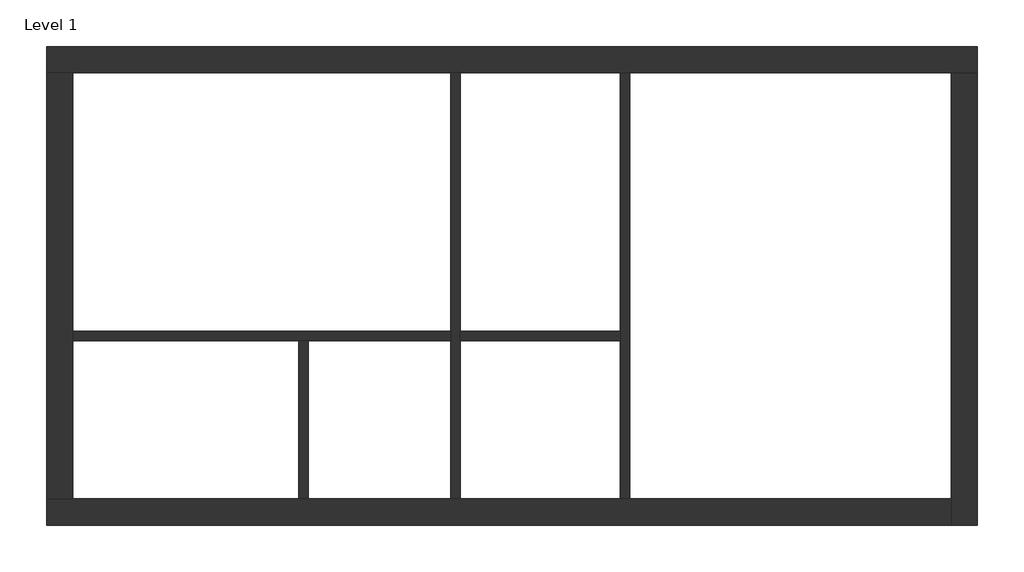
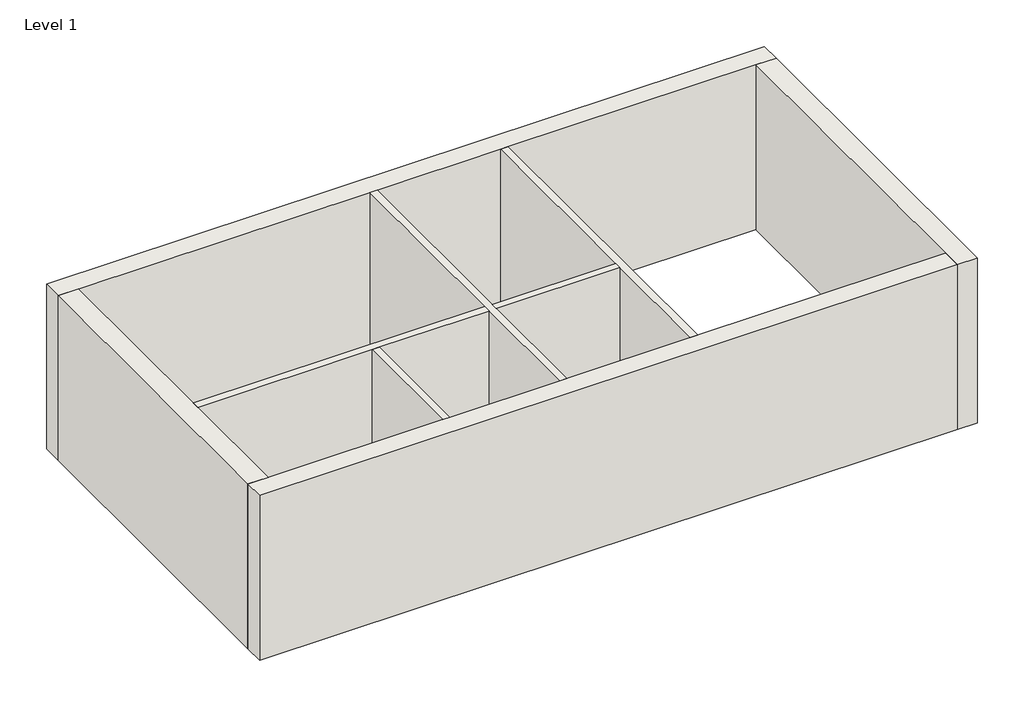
# One storey: 8 walls.
"""IFC4 building model written with IfcOpenShell, lengths in millimetres."""

import ifcopenshell
import ifcopenshell.guid

model = None  # the IFC model being written
_history = None  # IfcOwnerHistory: only IFC2X3 demands one
_inside = {}  # id of a spatial element -> (the spatial element, [elements in it])
_under = {}  # id of a project, library or spatial element -> (it, [spatial elements below it])
_declared = {}  # id of a project -> (the project, [libraries it declares])
_typed = {}  # id of a type object -> (the type object, [elements of that type])
_made_of = {}  # id of a material, layer set ... -> (it, [elements and type objects made of it])


def new_model(schema):
    """Start an empty IFC model of exactly this schema.

    Asked for "IFC4X3", IfcOpenShell would pick the latest addendum, in which some entities
    have other attributes; the version numbers below select the first issue.
    IFC2X3 requires an IfcOwnerHistory on every rooted entity: one is made here for all.
    """
    global model, _history
    if schema == "IFC4X3":
        model = ifcopenshell.file(schema_version=(4, 3, 0, 0))
    else:
        model = ifcopenshell.file(schema=schema)
    _inside.clear()
    _under.clear()
    _declared.clear()
    _typed.clear()
    _made_of.clear()
    _history = None
    if model.schema == "IFC2X3":
        org = make("IfcOrganization", Name="unknown")
        user = make(
            "IfcPersonAndOrganization",
            ThePerson=make("IfcPerson", FamilyName="unknown"),
            TheOrganization=org,
        )
        app = make(
            "IfcApplication",
            ApplicationDeveloper=org,
            Version="unknown",
            ApplicationFullName="unknown",
            ApplicationIdentifier="unknown",
        )
        _history = make(
            "IfcOwnerHistory",
            OwningUser=user,
            OwningApplication=app,
            ChangeAction="ADDED",
            CreationDate=0,
        )
    return model


def make(cls, **values):
    """One entity of the class cls with the attributes given. An attribute that is None is left unset."""
    return model.create_entity(
        cls, **{name: value for name, value in values.items() if value is not None}
    )


def rooted(cls, **values):
    """An entity with a GlobalId (a new one), such as an element, a storey or a relation."""
    return make(cls, GlobalId=ifcopenshell.guid.new(), OwnerHistory=_history, **values)


def si_unit(unit_type, name, prefix=None):
    """IfcSIUnit, for example si_unit("LENGTHUNIT", "METRE", prefix="MILLI")."""
    return make("IfcSIUnit", UnitType=unit_type, Prefix=prefix, Name=name)


def assignment(units):
    """IfcUnitAssignment: the units of a project."""
    return None if units is None else make("IfcUnitAssignment", Units=units)


def point(xyz):
    """IfcCartesianPoint."""
    return None if xyz is None else make("IfcCartesianPoint", Coordinates=xyz)


def direction(xyz):
    """IfcDirection."""
    return None if xyz is None else make("IfcDirection", DirectionRatios=xyz)


def frame(location, z_axis=None, x_axis=None):
    """IfcAxis2Placement3D, a coordinate frame: its origin and axes. An axis left out is left unset."""
    return make(
        "IfcAxis2Placement3D",
        Location=point(location),
        Axis=direction(z_axis),
        RefDirection=direction(x_axis),
    )


def origin():
    """The frame at (0, 0, 0) with its axes left unset."""
    return frame((0.0, 0.0, 0.0))


def origin_with_axes():
    """The frame at (0, 0, 0) with the z axis (0, 0, 1) and the x axis (1, 0, 0) written out."""
    return frame((0.0, 0.0, 0.0), z_axis=(0.0, 0.0, 1.0), x_axis=(1.0, 0.0, 0.0))


def place(relative_to, where):
    """IfcLocalPlacement: puts the frame where relative to a parent placement (None: the world)."""
    return make(
        "IfcLocalPlacement", PlacementRelTo=relative_to, RelativePlacement=where
    )


def context(
    kind, dimensions, precision=None, world=None, true_north=None, identifier=None
):
    """IfcGeometricRepresentationContext, for example the 3D "Model" context."""
    return make(
        "IfcGeometricRepresentationContext",
        ContextIdentifier=identifier,
        ContextType=kind,
        CoordinateSpaceDimension=dimensions,
        Precision=precision,
        WorldCoordinateSystem=world,
        TrueNorth=true_north,
    )


def project(units=None, contexts=None):
    """IfcProject with its units and contexts."""
    return rooted(
        "IfcProject",
        Name="project",
        RepresentationContexts=contexts,
        UnitsInContext=assignment(units),
    )


def spatial(cls, under=None, at=None, **own):
    """A site, building, storey or space (cls), placed at a placement, below another one or the project."""
    s = rooted(cls, ObjectPlacement=at, **own)
    if under is not None:
        _under.setdefault(under.id(), (under, []))[1].append(s)
    return s


def polyline(points):
    """IfcPolyline through the points."""
    return make("IfcPolyline", Points=[point(p) for p in points])


def outline(outer, holes=None, kind="AREA"):
    """IfcArbitraryClosedProfileDef: a profile drawn as a closed curve; with holes, ...WithVoids."""
    if holes is None:
        return make("IfcArbitraryClosedProfileDef", ProfileType=kind, OuterCurve=outer)
    return make(
        "IfcArbitraryProfileDefWithVoids",
        ProfileType=kind,
        OuterCurve=outer,
        InnerCurves=holes,
    )


def extrude(swept, where, along, depth):
    """IfcExtrudedAreaSolid: the profile swept, set in the frame where, extruded along a direction by depth."""
    return make(
        "IfcExtrudedAreaSolid",
        SweptArea=swept,
        Position=where,
        ExtrudedDirection=direction(along),
        Depth=depth,
    )


def faces_of(points, faces, orient=None, outer=None):
    """IfcFace entities. A face is a list of loops; a loop is a list of indices into points, from 0.

    orient and outer hold one flag for each loop. By default every Orientation is true, the
    first loop of a face is its IfcFaceOuterBound and the others are IfcFaceBound.
    """
    made = []
    for i, loops in enumerate(faces):
        bounds = []
        for j, loop in enumerate(loops):
            is_outer = j == 0 if outer is None else outer[i][j]
            bounds.append(
                make(
                    "IfcFaceOuterBound" if is_outer else "IfcFaceBound",
                    Bound=make("IfcPolyLoop", Polygon=[points[k] for k in loop]),
                    Orientation=True if orient is None else orient[i][j],
                )
            )
        made.append(make("IfcFace", Bounds=bounds))
    return made


def faceted_brep(points, faces, orient=None, outer=None, voids=None):
    """IfcFacetedBrep: a solid bounded by flat faces; with voids (closed shells), ...WithVoids."""
    shared = [point(p) for p in points]
    hull = make("IfcClosedShell", CfsFaces=faces_of(shared, faces, orient, outer))
    if voids is None:
        return make("IfcFacetedBrep", Outer=hull)
    return make(
        "IfcFacetedBrepWithVoids",
        Outer=hull,
        Voids=[
            make(cls, CfsFaces=faces_of(shared, fs, o, b)) for cls, fs, o, b in voids
        ],
    )


def shape(context_of_items, identifier, shape_type, items):
    """IfcShapeRepresentation: the items that make up one representation, for example the "Body"."""
    return make(
        "IfcShapeRepresentation",
        ContextOfItems=context_of_items,
        RepresentationIdentifier=identifier,
        RepresentationType=shape_type,
        Items=items,
    )


def made_of(thing, what):
    """Note that an element or type object is made of a material, layer set ...; save() writes the relation."""
    if what is not None:
        _made_of.setdefault(what.id(), (what, []))[1].append(thing)
    return thing


def element(
    cls,
    number,
    at=None,
    inside=None,
    cuts=None,
    type_object=None,
    material=None,
    context=None,
    identifier="Body",
    shape_type=None,
    held_by="IfcProductDefinitionShape",
    body=None,
    shapes=None,
    **own,
):
    """One element of the class cls, such as IfcWall. Its Tag is "e" and its number.

    at: its placement. inside: the storey or other place that contains it. cuts: it is an
    opening in that element (IfcRelVoidsElement). A single representation is given by context,
    identifier, shape_type and body (its items); several are given by shapes. held_by: the class
    of the entity that holds the representations. save() writes the other relations.
    """
    e = rooted(cls, Tag="e%d" % number, ObjectPlacement=at, **own)
    if body is not None:
        shapes = [shape(context, identifier, shape_type, body)]
    if shapes is not None:
        e.Representation = make(held_by, Representations=shapes)
    if inside is not None:
        _inside.setdefault(inside.id(), (inside, []))[1].append(e)
    if cuts is not None:
        rooted(
            "IfcRelVoidsElement", RelatingBuildingElement=cuts, RelatedOpeningElement=e
        )
    if type_object is not None:
        _typed.setdefault(type_object.id(), (type_object, []))[1].append(e)
    return made_of(e, material)


def aggregate(whole, parts):
    """IfcRelAggregates: a whole, such as a stair, and the parts it consists of."""
    return rooted("IfcRelAggregates", RelatingObject=whole, RelatedObjects=parts)


def save(model, path):
    """Write the relations noted so far, then the file.

    IfcRelAggregates (storeys below a building ...), IfcRelContainedInSpatialStructure (elements
    in a storey), IfcRelDefinesByType, IfcRelAssociatesMaterial and IfcRelDeclares: one each for
    every whole, place, type object, material and project.
    """
    for whole, parts in _under.values():
        aggregate(whole, parts)
    for where, things in _inside.values():
        rooted(
            "IfcRelContainedInSpatialStructure",
            RelatedElements=things,
            RelatingStructure=where,
        )
    for kind, things in _typed.values():
        rooted("IfcRelDefinesByType", RelatedObjects=things, RelatingType=kind)
    for what, things in _made_of.values():
        rooted("IfcRelAssociatesMaterial", RelatedObjects=things, RelatingMaterial=what)
    for by, libraries in _declared.values():
        rooted("IfcRelDeclares", RelatingContext=by, RelatedDefinitions=libraries)
    model.write(path)


model = new_model("IFC4")

# Units and contexts
model_context = context("Model", 3, world=origin())
ifc_project = project(units=[si_unit("LENGTHUNIT", "METRE", prefix="MILLI")], contexts=[model_context])

# Site, building, storey
site = spatial("IfcSite", under=ifc_project)
building = spatial("IfcBuilding", under=site)
storey = spatial("IfcBuildingStorey", under=building, Name="Level 1", Elevation=0.0)

# Walls
placement = place(None, origin())
element("IfcWall", 1, ObjectType="Exterior - Brick on Mtl. Stud", at=placement, inside=storey, context=model_context, shape_type="Brep", body=[
    faceted_brep([(-19116.5969712, 7611.6441174, 0.0), (-18764.1719712, 7611.6441174, 0.0), (-13669.8844712, 7611.6441174, 0.0), (-13542.8844712, 7611.6441174, 0.0), (-11383.8844712, 7611.6441174, 0.0), (-11256.8844712, 7611.6441174, 0.0), (-6924.5969712, 7611.6441174, 0.0), (-6572.1719712, 7611.6441174, 0.0), (-6572.1719712, 7611.6441174, 3048.0), (-6924.5969712, 7611.6441174, 3048.0), (-11256.8844712, 7611.6441174, 3048.0), (-11383.8844712, 7611.6441174, 3048.0), (-13542.8844712, 7611.6441174, 3048.0), (-13669.8844712, 7611.6441174, 3048.0), (-18764.1719712, 7611.6441174, 3048.0), (-19116.5969712, 7611.6441174, 3048.0), (-19116.5969712, 7964.0691174, 0.0), (-19116.5969712, 7964.0691174, 3048.0), (-6572.1719712, 7964.0691174, 3048.0), (-6572.1719712, 7964.0691174, 0.0)], [[[0, 1, 2, 3, 4, 5, 6, 7, 8, 9, 10, 11, 12, 13, 14, 15]], [[16, 17, 18, 19]], [[7, 6, 5, 4, 3, 2, 1, 0, 16, 19]], [[15, 14, 13, 12, 11, 10, 9, 8, 18, 17]], [[8, 7, 19, 18]], [[0, 15, 17, 16]]]),
])
element("IfcWall", 2, ObjectType="Exterior - Brick on Mtl. Stud", at=placement, inside=storey, context=model_context, shape_type="Brep", body=[
    faceted_brep([(-6924.5969712, 7611.6441174, 0.0), (-6924.5969712, 1868.0691174, 0.0), (-6924.5969712, 1515.6441174, 0.0), (-6924.5969712, 1515.6441174, 3048.0), (-6924.5969712, 1868.0691174, 3048.0), (-6924.5969712, 7611.6441174, 3048.0), (-6572.1719712, 7611.6441174, 0.0), (-6572.1719712, 7611.6441174, 3048.0), (-6572.1719712, 1515.6441174, 3048.0), (-6572.1719712, 1515.6441174, 0.0)], [[[0, 1, 2, 3, 4, 5]], [[6, 7, 8, 9]], [[2, 1, 0, 6, 9]], [[5, 4, 3, 8, 7]], [[0, 5, 7, 6]], [[3, 2, 9, 8]]]),
])
element("IfcWall", 3, ObjectType="Exterior - Brick on Mtl. Stud", at=placement, inside=storey, context=model_context, shape_type="Brep", body=[
    faceted_brep([(-6924.5969712, 1868.0691174, 0.0), (-11256.8844712, 1868.0691174, 0.0), (-11383.8844712, 1868.0691174, 0.0), (-13542.8844712, 1868.0691174, 0.0), (-13669.8844712, 1868.0691174, 0.0), (-15589.1719712, 1868.0691174, 0.0), (-15716.1719712, 1868.0691174, 0.0), (-18764.1719712, 1868.0691174, 0.0), (-19116.5969712, 1868.0691174, 0.0), (-19116.5969712, 1868.0691174, 3048.0), (-18764.1719712, 1868.0691174, 3048.0), (-15716.1719712, 1868.0691174, 3048.0), (-15589.1719712, 1868.0691174, 3048.0), (-13669.8844712, 1868.0691174, 3048.0), (-13542.8844712, 1868.0691174, 3048.0), (-11383.8844712, 1868.0691174, 3048.0), (-11256.8844712, 1868.0691174, 3048.0), (-6924.5969712, 1868.0691174, 3048.0), (-6924.5969712, 1515.6441174, 0.0), (-6924.5969712, 1515.6441174, 3048.0), (-19116.5969712, 1515.6441174, 3048.0), (-19116.5969712, 1515.6441174, 0.0)], [[[0, 1, 2, 3, 4, 5, 6, 7, 8, 9, 10, 11, 12, 13, 14, 15, 16, 17]], [[18, 19, 20, 21]], [[8, 7, 6, 5, 4, 3, 2, 1, 0, 18, 21]], [[17, 16, 15, 14, 13, 12, 11, 10, 9, 20, 19]], [[0, 17, 19, 18]], [[9, 8, 21, 20]]]),
])
element("IfcWall", 4, ObjectType="Exterior - Brick on Mtl. Stud", at=placement, inside=storey, context=model_context, shape_type="Brep", body=[
    faceted_brep([(-18764.1719712, 1868.0691174, 0.0), (-18764.1719712, 4001.6691174, 0.0), (-18764.1719712, 4128.6691174, 0.0), (-18764.1719712, 7611.6441174, 0.0), (-18764.1719712, 7611.6441174, 3048.0), (-18764.1719712, 4128.6691174, 3048.0), (-18764.1719712, 4001.6691174, 3048.0), (-18764.1719712, 1868.0691174, 3048.0), (-19116.5969712, 1868.0691174, 0.0), (-19116.5969712, 1868.0691174, 3048.0), (-19116.5969712, 7611.6441174, 3048.0), (-19116.5969712, 7611.6441174, 0.0)], [[[0, 1, 2, 3, 4, 5, 6, 7]], [[8, 9, 10, 11]], [[3, 2, 1, 0, 8, 11]], [[7, 6, 5, 4, 10, 9]], [[0, 7, 9, 8]], [[4, 3, 11, 10]]]),
])
element("IfcWall", 5, ObjectType="Interior - 5\" Partition (2-hr)", at=placement, inside=storey, context=model_context, shape_type="Brep", body=[
    faceted_brep([(-11383.8844712, 7611.6441174, 0.0), (-11383.8844712, 4128.6691174, 0.0), (-11383.8844712, 4001.6691174, 0.0), (-11383.8844712, 1868.0691174, 0.0), (-11383.8844712, 1868.0691174, 3048.0), (-11383.8844712, 4001.6691174, 3048.0), (-11383.8844712, 4128.6691174, 3048.0), (-11383.8844712, 7611.6441174, 3048.0), (-11256.8844712, 7611.6441174, 0.0), (-11256.8844712, 7611.6441174, 3048.0), (-11256.8844712, 1868.0691174, 3048.0), (-11256.8844712, 1868.0691174, 0.0)], [[[0, 1, 2, 3, 4, 5, 6, 7]], [[8, 9, 10, 11]], [[3, 2, 1, 0, 8, 11]], [[7, 6, 5, 4, 10, 9]], [[0, 7, 9, 8]], [[4, 3, 11, 10]]]),
])
element("IfcWall", 6, ObjectType="Interior - 5\" Partition (2-hr)", at=placement, inside=storey, context=model_context, shape_type="Brep", body=[
    faceted_brep([(-13669.8844712, 7611.6441174, 0.0), (-13669.8844712, 4128.6691174, 0.0), (-13669.8844712, 4001.6691174, 0.0), (-13669.8844712, 1868.0691174, 0.0), (-13669.8844712, 1868.0691174, 3048.0), (-13669.8844712, 4001.6691174, 3048.0), (-13669.8844712, 4128.6691174, 3048.0), (-13669.8844712, 7611.6441174, 3048.0), (-13542.8844712, 7611.6441174, 0.0), (-13542.8844712, 7611.6441174, 3048.0), (-13542.8844712, 4128.6691174, 3048.0), (-13542.8844712, 4001.6691174, 3048.0), (-13542.8844712, 1868.0691174, 3048.0), (-13542.8844712, 1868.0691174, 0.0), (-13542.8844712, 4001.6691174, 0.0), (-13542.8844712, 4128.6691174, 0.0)], [[[0, 1, 2, 3, 4, 5, 6, 7]], [[8, 9, 10, 11, 12, 13, 14, 15]], [[3, 2, 1, 0, 8, 15, 14, 13]], [[7, 6, 5, 4, 12, 11, 10, 9]], [[0, 7, 9, 8]], [[4, 3, 13, 12]]]),
])
element("IfcWall", 7, ObjectType="Interior - 5\" Partition (2-hr)", at=placement, inside=storey, context=model_context, shape_type="Brep", body=[
    faceted_brep([(-18764.1719712, 4001.6691174, 3048.0), (-18764.1719712, 4001.6691174, 0.0), (-15716.1719712, 4001.6691174, 0.0), (-15589.1719712, 4001.6691174, 0.0), (-13669.8844712, 4001.6691174, 0.0), (-13669.8844712, 4001.6691174, 3048.0), (-15589.1719712, 4001.6691174, 3048.0), (-15716.1719712, 4001.6691174, 3048.0), (-18764.1719712, 4128.6691174, 0.0), (-18764.1719712, 4128.6691174, 3048.0), (-13669.8844712, 4128.6691174, 3048.0), (-13669.8844712, 4128.6691174, 0.0)], [[[0, 1, 2, 3, 4, 5, 6, 7]], [[8, 9, 10, 11]], [[1, 8, 11, 4, 3, 2]], [[9, 0, 7, 6, 5, 10]], [[1, 0, 9, 8]], [[5, 4, 11, 10]]]),
    faceted_brep([(-11383.8844712, 4001.6691174, 0.0), (-11383.8844712, 4001.6691174, 3048.0), (-13542.8844712, 4001.6691174, 3048.0), (-13542.8844712, 4001.6691174, 0.0), (-11383.8844712, 4128.6691174, 3048.0), (-11383.8844712, 4128.6691174, 0.0), (-13542.8844712, 4128.6691174, 0.0), (-13542.8844712, 4128.6691174, 3048.0)], [[[0, 1, 2, 3]], [[4, 5, 6, 7]], [[5, 0, 3, 6]], [[1, 4, 7, 2]], [[1, 0, 5, 4]], [[3, 2, 7, 6]]]),
])
element("IfcWall", 8, ObjectType="Interior - 5\" Partition (2-hr)", at=placement, inside=storey, context=model_context, shape_type="SweptSolid", body=[
    extrude(outline(polyline([(-15589.1719712, 4001.6691174), (-15589.1719712, 1868.0691174), (-15716.1719712, 1868.0691174), (-15716.1719712, 4001.6691174), (-15589.1719712, 4001.6691174)])), origin_with_axes(), (0.0, 0.0, 1.0), 3048.0),
])

save(model, "model.ifc")
